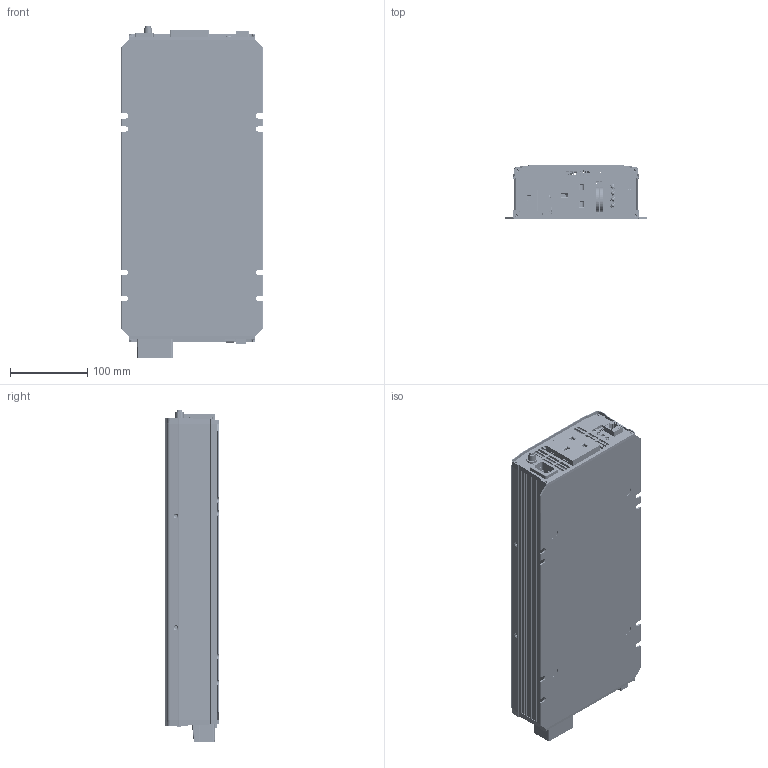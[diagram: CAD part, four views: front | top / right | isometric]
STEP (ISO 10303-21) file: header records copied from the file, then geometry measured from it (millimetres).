
FILE_DESCRIPTION(('Creo Elements/Direct Modeling STEP Export'),'2;1');
FILE_NAME('NTU-1700UK.stp','2022-03-22T10:54:37',(''),(''),'PTC Creo Elements/Direct Modeling STEP processor for AP214 (Solid Model)','PTC Creo Elements/Direct Modeling 19.0E 27-Jun-2016 (C) Parametric Technology GmbH','');
FILE_SCHEMA(('AUTOMOTIVE_DESIGN { 1 0 10303 214 1 1 1 1 }'));
Length unit declared in the file: millimetre
Products named in the file (296): 热敏.1; 热敏; 接地端子; _S___S_G_S_NA_S___S_H_X2_02DC__.PRT; TSW; TO247.22; TO247.21; TO247.12; TO247.11; TO220.27; TO220.26; TO220.25; TO220.24; TO220.23; TO220.22; TO220.21; TO220.18; TO220.17; TO220.16; TO220.15; TO220.14; TO220.13; TO220.12; TO220.11; THERMAL_PAD-2_5.PRT; THERMAL_PAD-1_8.PRT; SW65A; SI_PRT_16_1_1_5.PRT; PHONE_JACK_1.PRT; PCBF; PCBE; PCBC; PCBB; PCBA; PCB-D; P1.PRT; ON-OFF; MYLAR_PRT_16_1_1_5.PRT; MYLAR-2_5.PRT; MOSTO3P_1_1_PRT_16_1_1_5.PRT.42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
Assembly tree (126 placements, depth 2):
  热敏.1
    热敏.1
  热敏
    热敏
  接地端子
    接地端子
  _S___S_G_S_NA_S___S_H_X2_02DC__.PRT
    _S___S_G_S_NA_S___S_H_X2_02DC__.PRT
  TSW
    TSW
Bounding box: 183.99 x 70 x 431.06 mm (x, y, z)
Volume: 1434516 mm3; surface area: 1334763.2 mm2
Topology: 180 solids, 180 shells, 8124 faces, 21687 edges, 14201 vertices
Faces by surface type: plane 5698, cylinder 1724, cone 375, bspline 130, torus 114, sphere 78, extrusion 5
Entity records: 685044 total; most frequent: CARTESIAN_POINT 473626, ORIENTED_EDGE 42618, DIRECTION 38112, EDGE_CURVE 21297, VECTOR 16452, LINE 16447, VERTEX_POINT 13999, AXIS2_PLACEMENT_3D 10830
